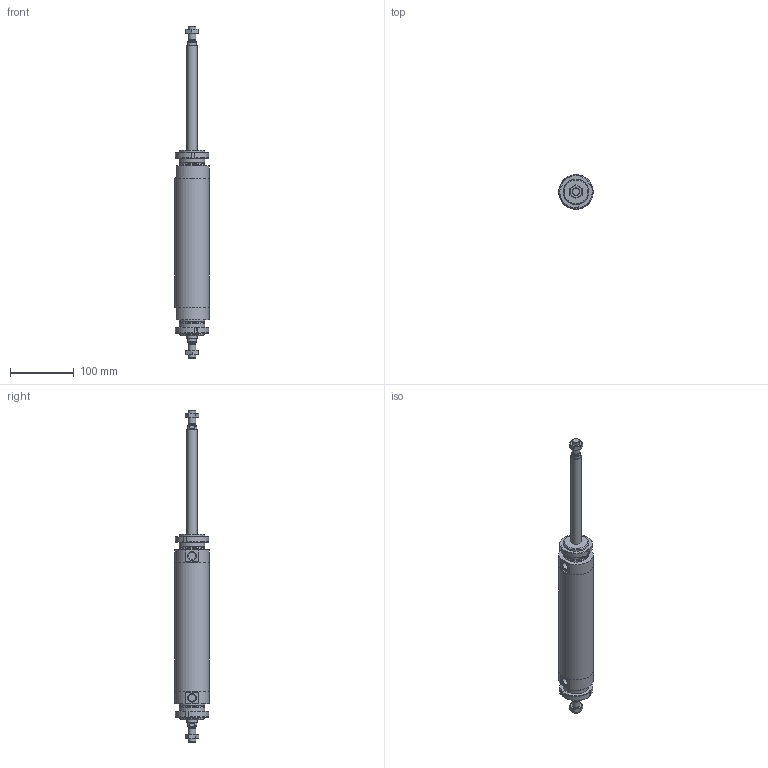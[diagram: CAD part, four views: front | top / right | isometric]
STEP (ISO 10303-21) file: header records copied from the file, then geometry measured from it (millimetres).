
FILE_DESCRIPTION(/* description */ (''),/* implementation_level */ '2;1');
FILE_NAME(/* name */ 'I:\Area Tecnica\Documenti\A-Manieri\_Inventor\12X\12X#S_###_####_#_#\12XCS_050_0160_#_#.stp',/* time_stamp */ '2015-05-08T14:18:53+02:00',/* author */ ('maniean1'),/* organization */ ('Pneumax S.p.A.'),/* preprocessor_version */ 'ST-DEVELOPER v15.2',/* originating_system */ 'Autodesk Inventor 2014',/* authorisation */ '');
FILE_SCHEMA (('AUTOMOTIVE_DESIGN { 1 0 10303 214 3 1 1 }'));
Length unit declared in the file: millimetre
Products named in the file (6): C1250_619-0160; 12X50_604; SP12X50_0160; 12X_50_11; G12X_050_05; 12XCS_050_0160_#_#
Bounding box: 54 x 54 x 522 mm (x, y, z)
Volume: 394957.1 mm3; surface area: 137403.7 mm2
Topology: 8 solids, 8 shells, 133 faces, 303 edges, 194 vertices
Faces by surface type: plane 66, cone 34, cylinder 33
Full cylindrical faces by diameter (mm): 10.2 x2, 11.4 x2, 12 x4, 14 x2, 15.6 x2, 16 x2, 38.2 x2, 40 x6, 50 x2, 54 x3
Entity records: 2300 total; most frequent: CARTESIAN_POINT 435, DIRECTION 388, ORIENTED_EDGE 310, AXIS2_PLACEMENT_3D 166, EDGE_CURVE 155, EDGE_LOOP 130, VERTEX_POINT 117, ADVANCED_FACE 85
